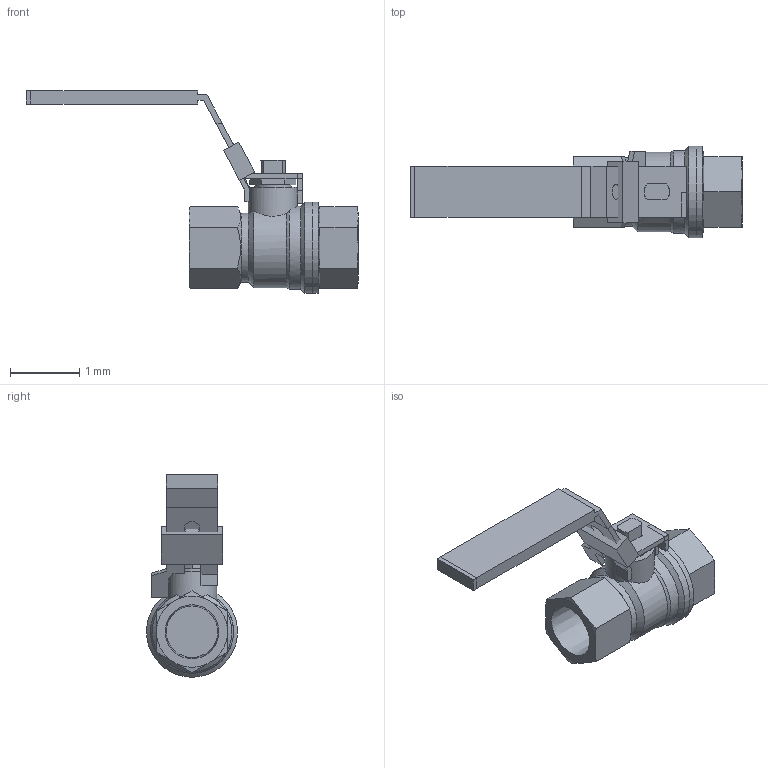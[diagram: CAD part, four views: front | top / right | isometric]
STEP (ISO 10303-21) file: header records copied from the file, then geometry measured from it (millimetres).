
FILE_DESCRIPTION(('Open CASCADE Model'),'2;1');
FILE_NAME('Open CASCADE Shape Model','2022-07-08T11:38:51',('Author'),( 'Open CASCADE'),'Open CASCADE STEP processor 7.3','Open CASCADE 7.3' ,'Unknown');
FILE_SCHEMA(('AUTOMOTIVE_DESIGN { 1 0 10303 214 1 1 1 1 }'));
Length unit declared in the file: millimetre
Products named in the file (36): Open CASCADE STEP translator 7.3 1; Open CASCADE STEP translator 7.3 1.1; Open CASCADE STEP translator 7.3 1.2; Open CASCADE STEP translator 7.3 1.3; Open CASCADE STEP translator 7.3 1.4; Open CASCADE STEP translator 7.3 1.5; Open CASCADE STEP translator 7.3 1.6; Open CASCADE STEP translator 7.3 1.7; Open CASCADE STEP translator 7.3 1.8; Open CASCADE STEP translator 7.3 1.9; Open CASCADE STEP translator 7.3 1.10; Open CASCADE STEP translator 7.3 1.11; Open CASCADE STEP translator 7.3 1.12; Open CASCADE STEP translator 7.3 1.13; Open CASCADE STEP translator 7.3 1.14; Open CASCADE STEP translator 7.3 1.15; Open CASCADE STEP translator 7.3 1.16; Open CASCADE STEP translator 7.3 1.17; Open CASCADE STEP translator 7.3 1.18; Open CASCADE STEP translator 7.3 1.19; Open CASCADE STEP translator 7.3 1.20; Open CASCADE STEP translator 7.3 1.21; Open CASCADE STEP translator 7.3 1.22; Open CASCADE STEP translator 7.3 1.23; Open CASCADE STEP translator 7.3 1.24; Open CASCADE STEP translator 7.3 1.25; Open CASCADE STEP translator 7.3 1.26; Open CASCADE STEP translator 7.3 1.27; Open CASCADE STEP translator 7.3 1.28; Open CASCADE STEP translator 7.3 1.29; Open CASCADE STEP translator 7.3 1.30; Open CASCADE STEP translator 7.3 1.31; Open CASCADE STEP translator 7.3 1.32; Open CASCADE STEP translator 7.3 1.33; Open CASCADE STEP translator 7.3 1.34; Open CASCADE STEP translator 7.3 1.35
Assembly tree (35 placements, depth 2):
  Open CASCADE STEP translator 7.3 1
    Open CASCADE STEP translator 7.3 1.1
    Open CASCADE STEP translator 7.3 1.2
    Open CASCADE STEP translator 7.3 1.3
    Open CASCADE STEP translator 7.3 1.4
    Open CASCADE STEP translator 7.3 1.5
    Open CASCADE STEP translator 7.3 1.6
    Open CASCADE STEP translator 7.3 1.7
    Open CASCADE STEP translator 7.3 1.8
    Open CASCADE STEP translator 7.3 1.9
    Open CASCADE STEP translator 7.3 1.10
    Open CASCADE STEP translator 7.3 1.11
    Open CASCADE STEP translator 7.3 1.12
    Open CASCADE STEP translator 7.3 1.13
    Open CASCADE STEP translator 7.3 1.14
    Open CASCADE STEP translator 7.3 1.15
    Open CASCADE STEP translator 7.3 1.16
    Open CASCADE STEP translator 7.3 1.17
    Open CASCADE STEP translator 7.3 1.18
    Open CASCADE STEP translator 7.3 1.19
    Open CASCADE STEP translator 7.3 1.20
    Open CASCADE STEP translator 7.3 1.21
    Open CASCADE STEP translator 7.3 1.22
    Open CASCADE STEP translator 7.3 1.23
    Open CASCADE STEP translator 7.3 1.24
    Open CASCADE STEP translator 7.3 1.25
    Open CASCADE STEP translator 7.3 1.26
    Open CASCADE STEP translator 7.3 1.27
    Open CASCADE STEP translator 7.3 1.28
    Open CASCADE STEP translator 7.3 1.29
    Open CASCADE STEP translator 7.3 1.30
    Open CASCADE STEP translator 7.3 1.31
    Open CASCADE STEP translator 7.3 1.32
    Open CASCADE STEP translator 7.3 1.33
    Open CASCADE STEP translator 7.3 1.34
    Open CASCADE STEP translator 7.3 1.35
Bounding box: 4.8 x 1.32 x 2.93 mm (x, y, z)
Volume: 2.3 mm3; surface area: 30.1 mm2
Topology: 9 solids, 35 shells, 127 faces, 365 edges, 284 vertices
Faces by surface type: plane 96, cone 19, cylinder 12
Full cylindrical faces by diameter (mm): 0.22 x1, 0.355 x1, 0.38 x1, 0.529 x1, 0.712 x1, 0.997 x1, 1.2 x1, 1.317 x2
Entity records: 10137 total; most frequent: CARTESIAN_POINT 3201, DIRECTION 1178, LINE 725, VECTOR 725, ORIENTED_EDGE 605, PCURVE 605, DEFINITIONAL_REPRESENTATION 605, EDGE_CURVE 365
